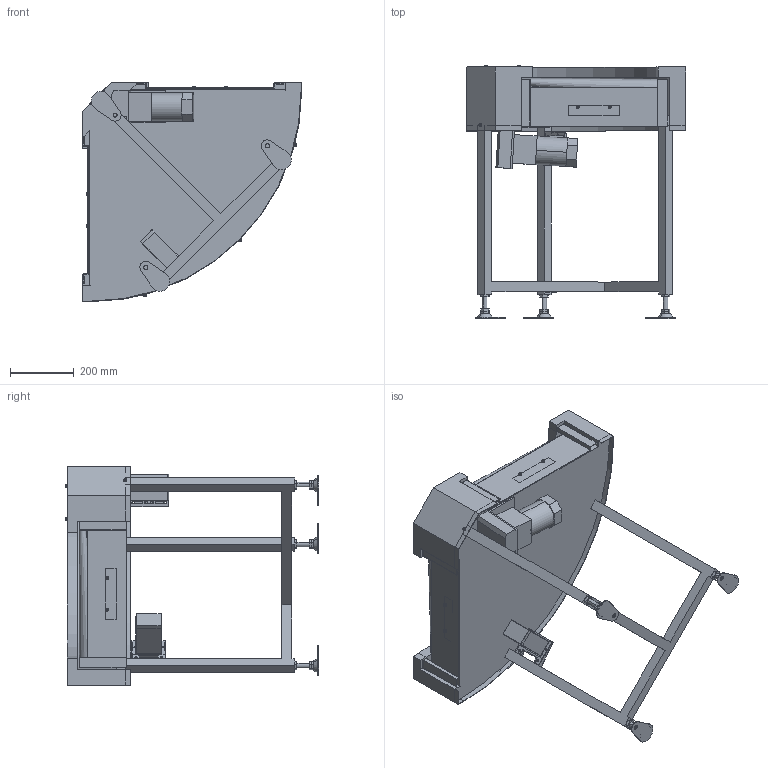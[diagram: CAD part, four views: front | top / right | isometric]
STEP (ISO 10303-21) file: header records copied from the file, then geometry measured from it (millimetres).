
FILE_DESCRIPTION (( 'STEP AP214' ), '1' );
FILE_NAME ('MBC2H-UD-400-R.STEP', '2022-08-22T05:03:16', ( '' ), ( '' ), 'SwSTEP 2.0', 'SolidWorks 2017', '' );
FILE_SCHEMA (( 'AUTOMOTIVE_DESIGN' ));
Length unit declared in the file: millimetre
Products named in the file (1): MBC2H-UD-400-R
Bounding box: 688.1 x 794.6 x 688.1 mm (x, y, z)
Volume: 38428494.3 mm3; surface area: 2818511.2 mm2
Topology: 15 solids, 15 shells, 652 faces, 1568 edges, 1015 vertices
Faces by surface type: plane 378, cylinder 174, bspline 37, cone 29, torus 28, sphere 6
Entity records: 28820 total; most frequent: CARTESIAN_POINT 6271, ORIENTED_EDGE 3120, DIRECTION 3089, EDGE_CURVE 1560, AXIS2_PLACEMENT_3D 1031, VECTOR 1027, LINE 1027, VERTEX_POINT 1015
